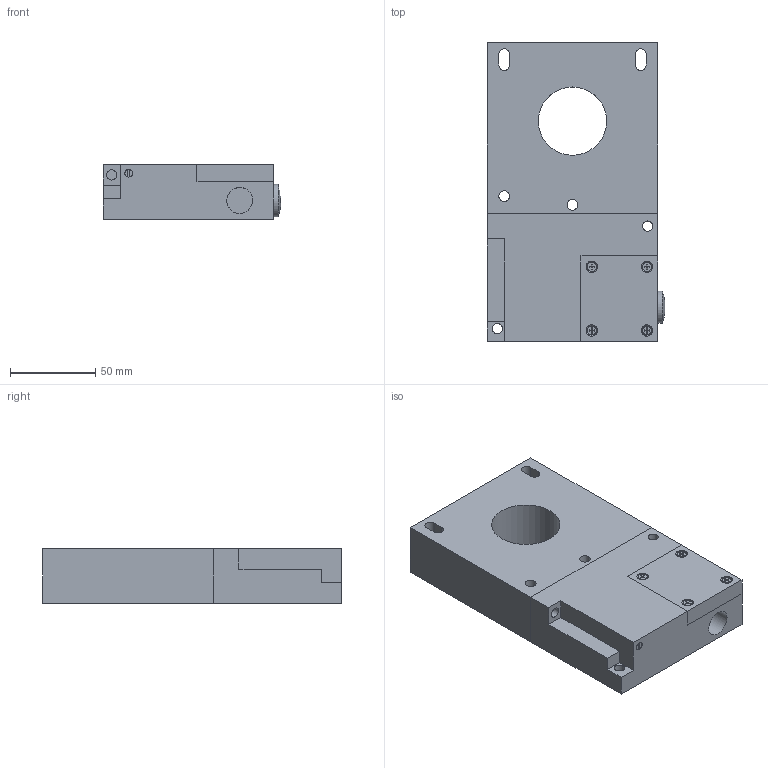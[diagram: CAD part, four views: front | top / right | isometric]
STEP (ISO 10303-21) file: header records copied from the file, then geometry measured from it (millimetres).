
FILE_DESCRIPTION((''),'2;1');
FILE_NAME('C:\TurckZip\M1440005.stp','2008-09-03T10:53:07',('IKOROL'),(''),'Autodesk Inventor 2008','Autodesk Inventor 2008','');
FILE_SCHEMA(('CONFIG_CONTROL_DESIGN'));
Length unit declared in the file: millimetre
Products named in the file (1): Part13
Bounding box: 104.15 x 175 x 32 mm (x, y, z)
Volume: 485367.7 mm3; surface area: 67607.6 mm2
Topology: 1 solids, 4 shells, 203 faces, 518 edges, 335 vertices
Faces by surface type: plane 99, cone 44, cylinder 35, torus 16, bspline 8, sphere 1
Full cylindrical faces by diameter (mm): 2.693 x4, 3.2 x1, 4 x2, 4.5 x1, 5.3 x4, 6 x4, 6.35 x2, 11.5 x1, 15 x1, 15.2 x2, 18 x1, 19 x1, 40 x1
Entity records: 6370 total; most frequent: CARTESIAN_POINT 1725, ORIENTED_EDGE 920, DIRECTION 890, EDGE_CURVE 460, AXIS2_PLACEMENT_3D 349, VERTEX_POINT 323, EDGE_LOOP 277, FACE_OUTER_BOUND 203
